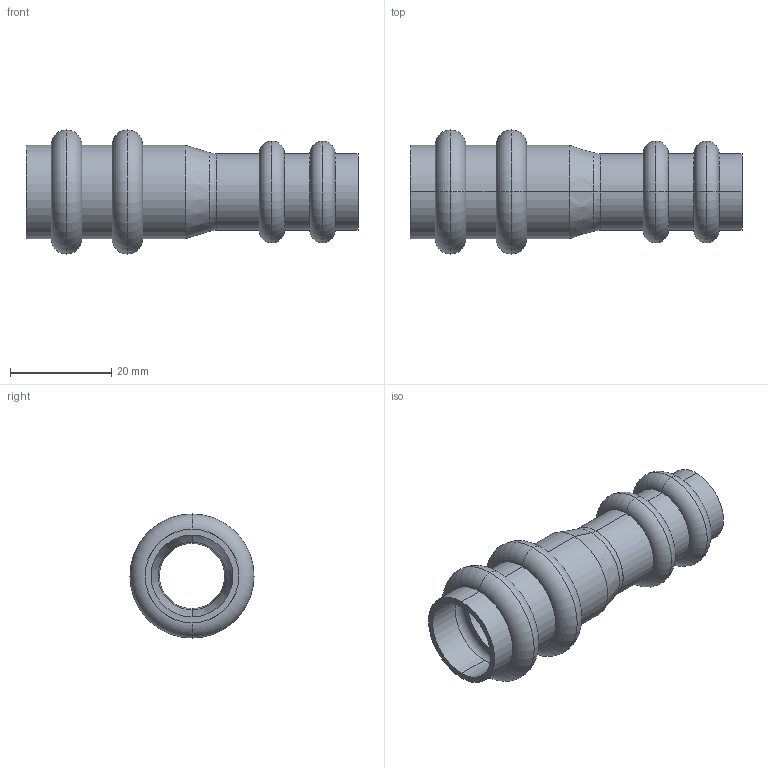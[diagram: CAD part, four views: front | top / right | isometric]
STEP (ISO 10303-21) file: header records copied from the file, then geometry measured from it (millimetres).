
FILE_DESCRIPTION(('starvars output'),'1');
FILE_NAME('cv20240422105304000011972.stp','10:53:04 2024/04/22',('Thomas Industrial Network Germany GmbH'),(' '),'Spatial InterOp 3D',' ',' ');
FILE_SCHEMA(('AUTOMOTIVE_DESIGN { 1 0 10303 214 3 1 1 }'));
Length unit declared in the file: millimetre
Products named in the file (1): 1
Bounding box: 65.5 x 24.5 x 24.5 mm (x, y, z)
Volume: 5149.8 mm3; surface area: 8663.5 mm2
Topology: 1 solids, 1 shells, 80 faces, 160 edges, 96 vertices
Faces by surface type: torus 36, cylinder 24, plane 16, cone 4
Entity records: 2788 total; most frequent: DIRECTION 454, CARTESIAN_POINT 337, ORIENTED_EDGE 320, AXIS2_PLACEMENT_3D 213, EDGE_CURVE 160, CIRCLE 132, EDGE_LOOP 96, VERTEX_POINT 96
